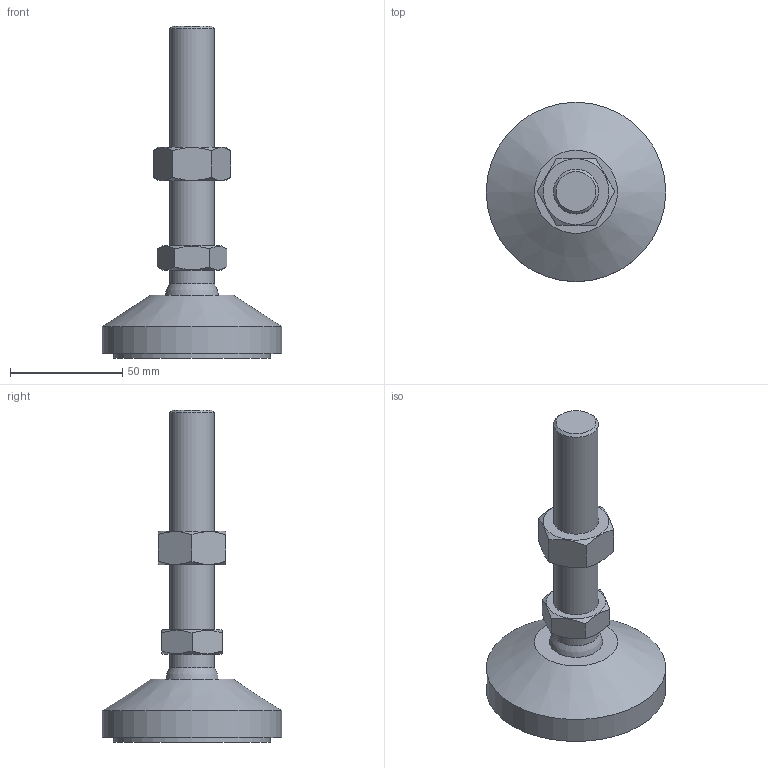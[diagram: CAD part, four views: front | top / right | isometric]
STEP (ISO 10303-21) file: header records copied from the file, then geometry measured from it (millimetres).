
FILE_DESCRIPTION(('STEP AP214'),'1');
FILE_NAME('AJBT-M20.stp','2017-07-21T01:19:52',(' '),(' '),'Spatial InterOp 3D',' ',' ');
FILE_SCHEMA(('automotive_design'));
Length unit declared in the file: millimetre
Products named in the file (4): AJBT-M20; AJBT-M20シャフト; AJBT-M20ﾊﾟｯﾄ; M20NT
Assembly tree (3 placements, depth 2):
  AJBT-M20
    AJBT-M20シャフト
    AJBT-M20ﾊﾟｯﾄ
    M20NT
Bounding box: 80 x 80 x 148 mm (x, y, z)
Volume: 155638.5 mm3; surface area: 27971.9 mm2
Topology: 3 solids, 3 shells, 33 faces, 76 edges, 51 vertices
Faces by surface type: plane 20, cone 6, cylinder 5, sphere 2
Full cylindrical faces by diameter (mm): 20 x3, 70 x1, 80 x1
Entity records: 1365 total; most frequent: CARTESIAN_POINT 411, DIRECTION 120, ORIENTED_EDGE 106, AXIS2_PLACEMENT_3D 54, EDGE_CURVE 53, EDGE_LOOP 50, VERTEX_POINT 41, FACE_OUTER_BOUND 38
